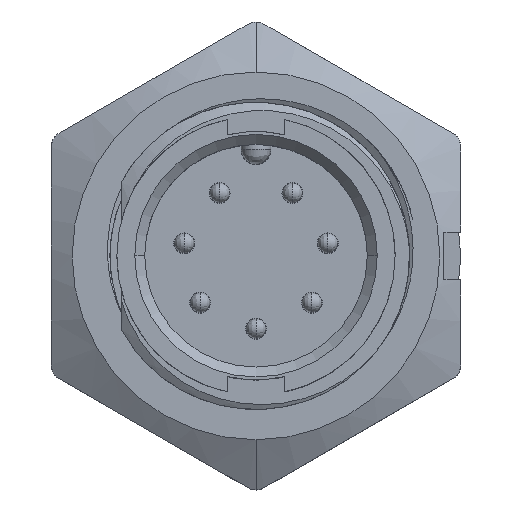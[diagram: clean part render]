
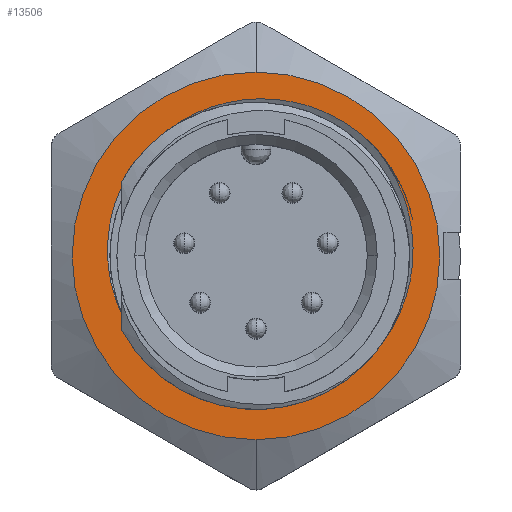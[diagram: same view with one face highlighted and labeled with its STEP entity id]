
A CAD part, top view. The second image highlights one B-rep face of the part: STEP entity #13506.
In plain terms, the highlighted planar face has unit normal (0, 0, 1).
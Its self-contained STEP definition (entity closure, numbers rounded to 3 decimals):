
#15 = CARTESIAN_POINT ( 'NONE',  ( 1.237, 7.899, -6.1 ) ) ;
#275 = CARTESIAN_POINT ( 'NONE',  ( -6.682, -3.063, -6.1 ) ) ;
#282 = CARTESIAN_POINT ( 'NONE',  ( 0., 9.25, -6.1 ) ) ;
#383 = CARTESIAN_POINT ( 'NONE',  ( 5.365, 6.07, -6.1 ) ) ;
#991 = VERTEX_POINT ( 'NONE', #14434 ) ;
#1021 = CARTESIAN_POINT ( 'NONE',  ( 7.879, 1.35, -6.1 ) ) ;
#1302 = CARTESIAN_POINT ( 'NONE',  ( -6.279, -3.846, -6.1 ) ) ;
#1326 = CARTESIAN_POINT ( 'NONE',  ( 2.14, 7.737, -6.1 ) ) ;
#1404 = CARTESIAN_POINT ( 'NONE',  ( -6.682, -3.063, -6.1 ) ) ;
#1491 = CARTESIAN_POINT ( 'NONE',  ( -3.918, 6.752, -6.1 ) ) ;
#1550 = VERTEX_POINT ( 'NONE', #8389 ) ;
#1805 = DIRECTION ( 'NONE',  ( -1., 0., 0. ) ) ;
#2021 = CARTESIAN_POINT ( 'NONE',  ( 7.06, 3.95, -6.1 ) ) ;
#2173 = CARTESIAN_POINT ( 'NONE',  ( 7.921, -0.448, -6.1 ) ) ;
#2338 = CARTESIAN_POINT ( 'NONE',  ( 7.786, -1.344, -6.1 ) ) ;
#2650 = CARTESIAN_POINT ( 'NONE',  ( -7.308, -1.502, -6.1 ) ) ;
#2738 = CARTESIAN_POINT ( 'NONE',  ( 0., -9.25, -6.1 ) ) ;
#2782 = CARTESIAN_POINT ( 'NONE',  ( 5.797, 5.667, -6.1 ) ) ;
#2804 = CARTESIAN_POINT ( 'NONE',  ( 3.849, 7.115, -6.1 ) ) ;
#2885 = B_SPLINE_CURVE_WITH_KNOTS ( 'NONE', 3,
 ( #5239, #4916, #2804, #1326, #15, #12526, #13598, #10189, #1491, #10111, #8820, #13685, #6296, #11303, #14908, #2650, #13924, #1404 ),
 .UNSPECIFIED., .F., .F.,
 ( 4, 2, 2, 2, 2, 2, 2, 2, 4 ),
 ( 0., 0.125, 0.25, 0.375, 0.5, 0.625, 0.75, 0.875, 1. ),
 .UNSPECIFIED. ) ;
#3479 = CARTESIAN_POINT ( 'NONE',  ( 7.706, 2.251, -6.1 ) ) ;
#3567 = CARTESIAN_POINT ( 'NONE',  ( -1.397, -7.328, -6.1 ) ) ;
#3603 = EDGE_CURVE ( 'NONE', #991, #10514, #5583, .T. ) ;
#3667 = VERTEX_POINT ( 'NONE', #10073 ) ;
#3916 = EDGE_LOOP ( 'NONE', ( #11968, #11187, #11060, #7118 ) ) ;
#3941 = CARTESIAN_POINT ( 'NONE',  ( -5.759, -4.569, -6.1 ) ) ;
#4220 = EDGE_CURVE ( 'NONE', #1550, #10514, #2885, .T. ) ;
#4557 = VERTEX_POINT ( 'NONE', #282 ) ;
#4707 = CARTESIAN_POINT ( 'NONE',  ( 3.618, -6.74, -6.1 ) ) ;
#4806 = AXIS2_PLACEMENT_3D ( 'NONE', #7969, #13140, #6740 ) ;
#4916 = CARTESIAN_POINT ( 'NONE',  ( 4.655, 6.655, -6.1 ) ) ;
#5220 = CARTESIAN_POINT ( 'NONE',  ( -6.682, -3.063, -6.1 ) ) ;
#5239 = CARTESIAN_POINT ( 'NONE',  ( 5.365, 6.07, -6.1 ) ) ;
#5264 = EDGE_CURVE ( 'NONE', #15289, #4557, #14029, .T. ) ;
#5369 = CARTESIAN_POINT ( 'NONE',  ( 5.899, 5.559, -6.1 ) ) ;
#5583 = B_SPLINE_CURVE_WITH_KNOTS ( 'NONE', 3,
 ( #11362, #9929, #6276, #11204, #6107, #8643, #15135, #13578, #7505, #8716, #3941, #6350, #11033, #1302, #10171, #5220 ),
 .UNSPECIFIED., .F., .F.,
 ( 4, 1, 2, 2, 2, 1, 2, 2, 4 ),
 ( 0., 0.125, 0.188, 0.25, 0.5, 0.625, 0.688, 0.75, 1. ),
 .UNSPECIFIED. ) ;
#6072 = CARTESIAN_POINT ( 'NONE',  ( -2.967, -6.725, -6.1 ) ) ;
#6078 = B_SPLINE_CURVE_WITH_KNOTS ( 'NONE', 3,
 ( #383, #12832, #12668, #2782, #5369, #7652 ),
 .UNSPECIFIED., .F., .F.,
 ( 4, 2, 4 ),
 ( 0., 0.5, 1. ),
 .UNSPECIFIED. ) ;
#6107 = CARTESIAN_POINT ( 'NONE',  ( -3.938, -6.207, -6.1 ) ) ;
#6276 = CARTESIAN_POINT ( 'NONE',  ( -3.465, -6.489, -6.1 ) ) ;
#6296 = CARTESIAN_POINT ( 'NONE',  ( -7.119, 2.711, -6.1 ) ) ;
#6350 = CARTESIAN_POINT ( 'NONE',  ( -5.895, -4.391, -6.1 ) ) ;
#6740 = DIRECTION ( 'NONE',  ( 1., 0., 0. ) ) ;
#6992 = CARTESIAN_POINT ( 'NONE',  ( 6.808, -3.822, -6.1 ) ) ;
#7118 = ORIENTED_EDGE ( 'NONE', *, *, #13208, .F. ) ;
#7146 = CARTESIAN_POINT ( 'NONE',  ( 6.588, 4.749, -6.1 ) ) ;
#7169 = B_SPLINE_CURVE_WITH_KNOTS ( 'NONE', 3,
 ( #6072, #14372, #3567, #8528, #13217, #13295, #4707, #12133, #8210, #6992, #12050, #2338, #2173, #1021, #3479, #2021, #7146, #7309 ),
 .UNSPECIFIED., .F., .F.,
 ( 4, 2, 2, 2, 2, 2, 2, 2, 4 ),
 ( 0., 0.125, 0.25, 0.375, 0.5, 0.625, 0.75, 0.875, 1. ),
 .UNSPECIFIED. ) ;
#7309 = CARTESIAN_POINT ( 'NONE',  ( 5.992, 5.451, -6.1 ) ) ;
#7505 = CARTESIAN_POINT ( 'NONE',  ( -5.32, -5.077, -6.1 ) ) ;
#7652 = CARTESIAN_POINT ( 'NONE',  ( 5.992, 5.451, -6.1 ) ) ;
#7720 = CIRCLE ( 'NONE', #8768, 9.25 ) ;
#7875 = ORIENTED_EDGE ( 'NONE', *, *, #9660, .F. ) ;
#7969 = CARTESIAN_POINT ( 'NONE',  ( 0., 0., -6.1 ) ) ;
#8035 = DIRECTION ( 'NONE',  ( 0., 0., -1. ) ) ;
#8210 = CARTESIAN_POINT ( 'NONE',  ( 5.732, -5.207, -6.1 ) ) ;
#8212 = FACE_BOUND ( 'NONE', #3916, .T. ) ;
#8389 = CARTESIAN_POINT ( 'NONE',  ( 5.365, 6.07, -6.1 ) ) ;
#8528 = CARTESIAN_POINT ( 'NONE',  ( 0.283, -7.518, -6.1 ) ) ;
#8643 = CARTESIAN_POINT ( 'NONE',  ( -4.029, -6.148, -6.1 ) ) ;
#8716 = CARTESIAN_POINT ( 'NONE',  ( -5.548, -4.83, -6.1 ) ) ;
#8768 = AXIS2_PLACEMENT_3D ( 'NONE', #15949, #11620, #1805 ) ;
#8820 = CARTESIAN_POINT ( 'NONE',  ( -5.876, 4.994, -6.1 ) ) ;
#9660 = EDGE_CURVE ( 'NONE', #4557, #15289, #7720, .T. ) ;
#9929 = CARTESIAN_POINT ( 'NONE',  ( -3.169, -6.635, -6.1 ) ) ;
#10073 = CARTESIAN_POINT ( 'NONE',  ( 5.992, 5.451, -6.1 ) ) ;
#10111 = CARTESIAN_POINT ( 'NONE',  ( -5.289, 5.656, -6.1 ) ) ;
#10171 = CARTESIAN_POINT ( 'NONE',  ( -6.497, -3.464, -6.1 ) ) ;
#10189 = CARTESIAN_POINT ( 'NONE',  ( -3.134, 7.185, -6.1 ) ) ;
#10465 = PLANE ( 'NONE',  #4806 ) ;
#10514 = VERTEX_POINT ( 'NONE', #275 ) ;
#10608 = CARTESIAN_POINT ( 'NONE',  ( 0., 0., -6.1 ) ) ;
#11033 = CARTESIAN_POINT ( 'NONE',  ( -5.963, -4.299, -6.1 ) ) ;
#11060 = ORIENTED_EDGE ( 'NONE', *, *, #12147, .T. ) ;
#11187 = ORIENTED_EDGE ( 'NONE', *, *, #4220, .F. ) ;
#11204 = CARTESIAN_POINT ( 'NONE',  ( -3.75, -6.322, -6.1 ) ) ;
#11303 = CARTESIAN_POINT ( 'NONE',  ( -7.483, 1.038, -6.1 ) ) ;
#11362 = CARTESIAN_POINT ( 'NONE',  ( -2.967, -6.725, -6.1 ) ) ;
#11620 = DIRECTION ( 'NONE',  ( 0., 0., -1. ) ) ;
#11737 = DIRECTION ( 'NONE',  ( -1., 0., 0. ) ) ;
#11968 = ORIENTED_EDGE ( 'NONE', *, *, #3603, .T. ) ;
#12050 = CARTESIAN_POINT ( 'NONE',  ( 7.228, -3.031, -6.1 ) ) ;
#12133 = CARTESIAN_POINT ( 'NONE',  ( 5.077, -5.803, -6.1 ) ) ;
#12147 = EDGE_CURVE ( 'NONE', #1550, #3667, #6078, .T. ) ;
#12526 = CARTESIAN_POINT ( 'NONE',  ( -0.561, 7.913, -6.1 ) ) ;
#12668 = CARTESIAN_POINT ( 'NONE',  ( 5.576, 5.885, -6.1 ) ) ;
#12832 = CARTESIAN_POINT ( 'NONE',  ( 5.468, 5.983, -6.1 ) ) ;
#12982 = FACE_OUTER_BOUND ( 'NONE', #16012, .T. ) ;
#13140 = DIRECTION ( 'NONE',  ( 0., 0., 1. ) ) ;
#13208 = EDGE_CURVE ( 'NONE', #991, #3667, #7169, .T. ) ;
#13217 = CARTESIAN_POINT ( 'NONE',  ( 1.145, -7.467, -6.1 ) ) ;
#13295 = CARTESIAN_POINT ( 'NONE',  ( 2.813, -7.078, -6.1 ) ) ;
#13506 = ADVANCED_FACE ( 'NONE', ( #8212, #12982 ), #10465, .T. ) ;
#13578 = CARTESIAN_POINT ( 'NONE',  ( -4.84, -5.549, -6.1 ) ) ;
#13598 = CARTESIAN_POINT ( 'NONE',  ( -1.455, 7.766, -6.1 ) ) ;
#13685 = CARTESIAN_POINT ( 'NONE',  ( -6.791, 3.521, -6.1 ) ) ;
#13924 = CARTESIAN_POINT ( 'NONE',  ( -7.058, -2.317, -6.1 ) ) ;
#14029 = CIRCLE ( 'NONE', #14806, 9.25 ) ;
#14372 = CARTESIAN_POINT ( 'NONE',  ( -2.216, -7.089, -6.1 ) ) ;
#14434 = CARTESIAN_POINT ( 'NONE',  ( -2.967, -6.725, -6.1 ) ) ;
#14806 = AXIS2_PLACEMENT_3D ( 'NONE', #10608, #8035, #11737 ) ;
#14908 = CARTESIAN_POINT ( 'NONE',  ( -7.521, 0.176, -6.1 ) ) ;
#15030 = ORIENTED_EDGE ( 'NONE', *, *, #5264, .F. ) ;
#15135 = CARTESIAN_POINT ( 'NONE',  ( -4.494, -5.834, -6.1 ) ) ;
#15289 = VERTEX_POINT ( 'NONE', #2738 ) ;
#15949 = CARTESIAN_POINT ( 'NONE',  ( 0., 0., -6.1 ) ) ;
#16012 = EDGE_LOOP ( 'NONE', ( #15030, #7875 ) ) ;
